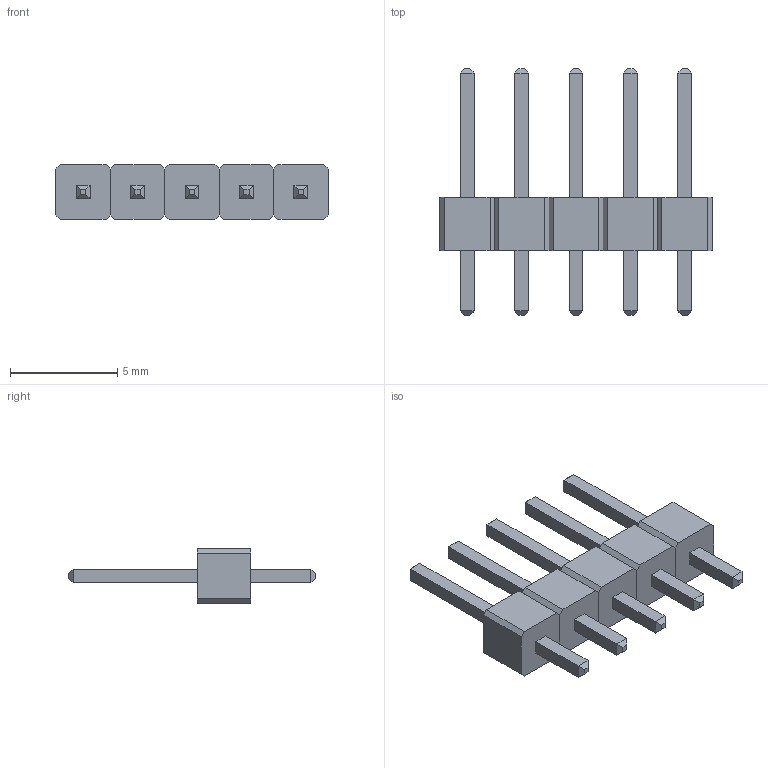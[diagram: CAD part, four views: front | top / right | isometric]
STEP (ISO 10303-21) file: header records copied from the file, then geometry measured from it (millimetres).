
FILE_DESCRIPTION (( 'STEP AP214' ), '1' );
FILE_NAME ('Header5.STEP', '2018-03-15T17:06:30', ( '' ), ( '' ), 'SwSTEP 2.0', 'SolidWorks 2016', '' );
FILE_SCHEMA (( 'AUTOMOTIVE_DESIGN' ));
Length unit declared in the file: millimetre
Products named in the file (2): Header; Header5
Assembly tree (5 placements, depth 2):
  Header5
    Header  x5
Bounding box: 12.7 x 11.5 x 2.54 mm (x, y, z)
Volume: 98.2 mm3; surface area: 298.1 mm2
Topology: 5 solids, 5 shells, 140 faces, 320 edges, 200 vertices
Faces by surface type: plane 140
Entity records: 1170 total; most frequent: CARTESIAN_POINT 140, DIRECTION 136, ORIENTED_EDGE 128, VECTOR 64, EDGE_CURVE 64, LINE 64, VERTEX_POINT 40, AXIS2_PLACEMENT_3D 36
